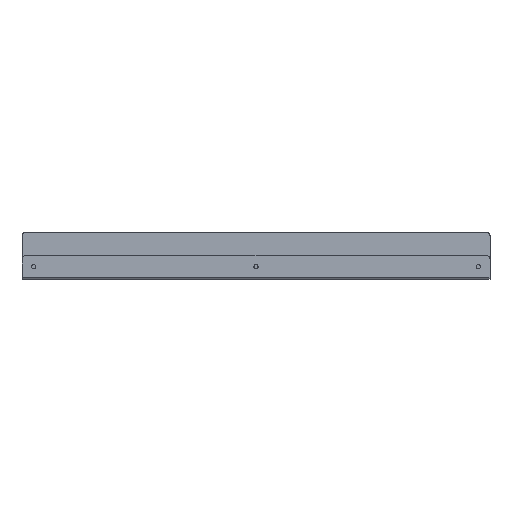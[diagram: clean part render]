
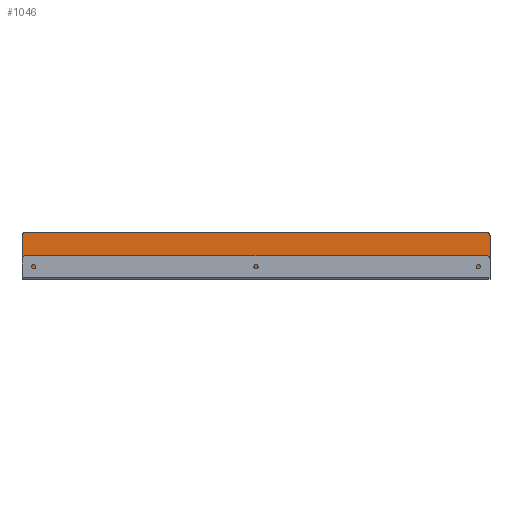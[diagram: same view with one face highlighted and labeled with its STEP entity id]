
A CAD part, top view. The second image highlights one B-rep face of the part: STEP entity #1046.
In plain terms, the highlighted planar face has unit normal (0, 0, 1).
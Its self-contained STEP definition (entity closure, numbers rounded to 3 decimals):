
#42 = CARTESIAN_POINT ( 'NONE',  ( 0., 0., 0. ) ) ;
#87 = VERTEX_POINT ( 'NONE', #1227 ) ;
#136 = DIRECTION ( 'NONE',  ( 1., 0., 0. ) ) ;
#226 = VECTOR ( 'NONE', #664, 1000. ) ;
#348 = ORIENTED_EDGE ( 'NONE', *, *, #613, .T. ) ;
#450 = CARTESIAN_POINT ( 'NONE',  ( 400., 40., 0. ) ) ;
#471 = VERTEX_POINT ( 'NONE', #3358 ) ;
#554 = CARTESIAN_POINT ( 'NONE',  ( -400., -40., 0. ) ) ;
#605 = AXIS2_PLACEMENT_3D ( 'NONE', #42, #3424, #1740 ) ;
#613 = EDGE_CURVE ( 'NONE', #2175, #2314, #2047, .T. ) ;
#630 = VECTOR ( 'NONE', #1943, 1000. ) ;
#664 = DIRECTION ( 'NONE',  ( 0., 1., 0. ) ) ;
#722 = EDGE_CURVE ( 'NONE', #2395, #3586, #2396, .T. ) ;
#744 = EDGE_CURVE ( 'NONE', #2314, #2395, #819, .T. ) ;
#772 = ORIENTED_EDGE ( 'NONE', *, *, #722, .T. ) ;
#819 = CIRCLE ( 'NONE', #3419, 5. ) ;
#908 = CIRCLE ( 'NONE', #1496, 5. ) ;
#951 = CARTESIAN_POINT ( 'NONE',  ( 395., 35., 0. ) ) ;
#1046 = ADVANCED_FACE ( 'NONE', ( #2574 ), #2054, .T. ) ;
#1099 = LINE ( 'NONE', #3349, #630 ) ;
#1126 = ORIENTED_EDGE ( 'NONE', *, *, #744, .T. ) ;
#1188 = CARTESIAN_POINT ( 'NONE',  ( 400., 35., 0. ) ) ;
#1227 = CARTESIAN_POINT ( 'NONE',  ( -400., 35., 0. ) ) ;
#1394 = EDGE_CURVE ( 'NONE', #87, #471, #2238, .T. ) ;
#1496 = AXIS2_PLACEMENT_3D ( 'NONE', #2677, #3231, #2938 ) ;
#1562 = EDGE_CURVE ( 'NONE', #3586, #87, #908, .T. ) ;
#1613 = ORIENTED_EDGE ( 'NONE', *, *, #1394, .T. ) ;
#1677 = DIRECTION ( 'NONE',  ( 0., -1., 0. ) ) ;
#1740 = DIRECTION ( 'NONE',  ( 1., 0., 0. ) ) ;
#1873 = DIRECTION ( 'NONE',  ( -1., 0., 0. ) ) ;
#1943 = DIRECTION ( 'NONE',  ( -1., 0., 0. ) ) ;
#1980 = CARTESIAN_POINT ( 'NONE',  ( 400., -37., 0. ) ) ;
#2047 = LINE ( 'NONE', #2904, #226 ) ;
#2054 = PLANE ( 'NONE',  #605 ) ;
#2175 = VERTEX_POINT ( 'NONE', #1980 ) ;
#2238 = LINE ( 'NONE', #554, #2735 ) ;
#2310 = EDGE_CURVE ( 'NONE', #2175, #471, #1099, .T. ) ;
#2314 = VERTEX_POINT ( 'NONE', #1188 ) ;
#2395 = VERTEX_POINT ( 'NONE', #3652 ) ;
#2396 = LINE ( 'NONE', #450, #2529 ) ;
#2529 = VECTOR ( 'NONE', #1873, 1000. ) ;
#2574 = FACE_OUTER_BOUND ( 'NONE', #3453, .T. ) ;
#2609 = ORIENTED_EDGE ( 'NONE', *, *, #1562, .T. ) ;
#2635 = ORIENTED_EDGE ( 'NONE', *, *, #2310, .F. ) ;
#2673 = DIRECTION ( 'NONE',  ( 0., 0., 1. ) ) ;
#2677 = CARTESIAN_POINT ( 'NONE',  ( -395., 35., 0. ) ) ;
#2735 = VECTOR ( 'NONE', #1677, 1000. ) ;
#2904 = CARTESIAN_POINT ( 'NONE',  ( 400., -40., 0. ) ) ;
#2938 = DIRECTION ( 'NONE',  ( 1., 0., 0. ) ) ;
#3231 = DIRECTION ( 'NONE',  ( 0., 0., 1. ) ) ;
#3349 = CARTESIAN_POINT ( 'NONE',  ( 400., -37., 0. ) ) ;
#3358 = CARTESIAN_POINT ( 'NONE',  ( -400., -37., 0. ) ) ;
#3419 = AXIS2_PLACEMENT_3D ( 'NONE', #951, #2673, #136 ) ;
#3424 = DIRECTION ( 'NONE',  ( 0., 0., 1. ) ) ;
#3453 = EDGE_LOOP ( 'NONE', ( #772, #2609, #1613, #2635, #348, #1126 ) ) ;
#3533 = CARTESIAN_POINT ( 'NONE',  ( -395., 40., 0. ) ) ;
#3586 = VERTEX_POINT ( 'NONE', #3533 ) ;
#3652 = CARTESIAN_POINT ( 'NONE',  ( 395., 40., 0. ) ) ;
